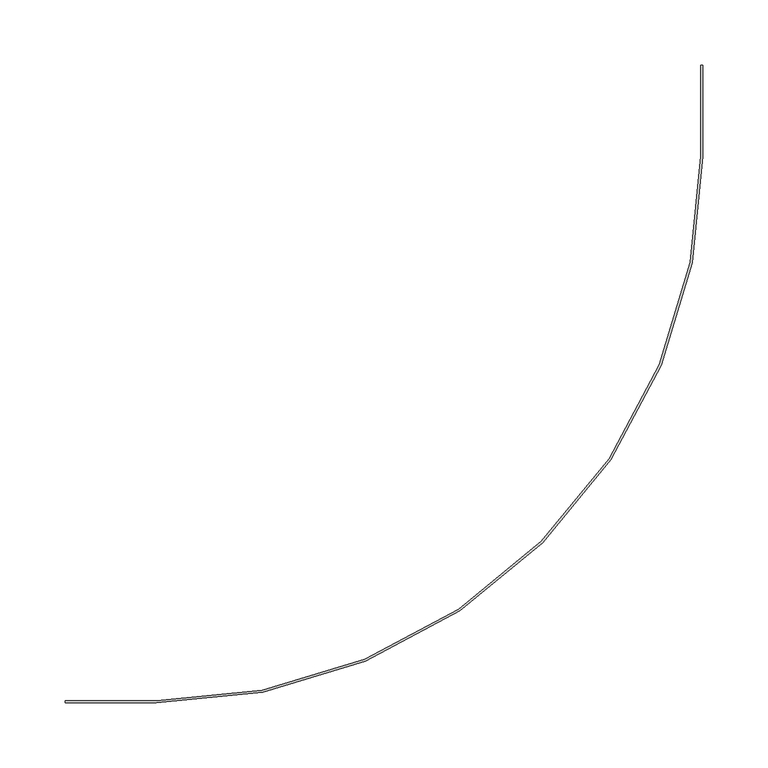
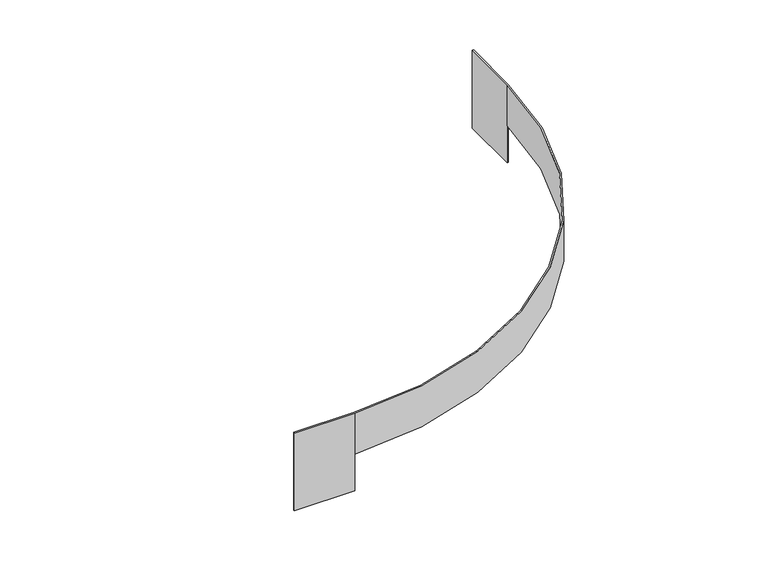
"""IFC4 building model written with IfcOpenShell, lengths in millimetres: cable carrier fitting geometry, BAKS_LD_CONN_Addon connector_LDDK : LDDKP."""

from ifc_helpers import new_model, si_unit, frame, origin, place, context, project, spatial, polyline, circle_curve, source, transform, mapped, element, save
from ifc_brep_helpers import plane_surface, cylinder_surface, revolved_surface, advanced_brep


def cable_carrier_fitting_a9217249(model_context):
    return source(origin(), model_context, "Body", "AdvancedBrep", [
        advanced_brep(
        [(-490.0, 1.5, 72.5), (-490.0, 1.5, -22.5), (-490.0, 0.0, -22.5), (-490.0, 0.0, 72.5), (-420.0, 0.0, 72.5), (0.0, 420.0, 72.5), (0.0, 490.0, 72.5), (-1.5, 490.0, 72.5), (-1.5, 420.0, 72.5), (-420.0, 1.5, 72.5), (-420.0, 0.0, -22.5), (-420.0, 0.0, 22.5), (-420.0, 1.5, 22.5), (-1.5, 420.0, 22.5), (0.0, 420.0, 22.5), (-420.0, 1.5, -22.5), (0.0, 490.0, -22.5), (-1.5, 490.0, -22.5), (0.0, 420.0, -22.5), (-1.5, 420.0, -22.5)],
        [
            (0, 1),
            (1, 2),
            (2, 3),
            (3, 0),
            (3, 4),
            (4, 5, circle_curve(frame((-420.0, 420.0, 72.5), z_axis=(0.0, 0.0, 1.0), x_axis=(0.0, -1.0, 0.0)), 420.0)),
            (5, 6),
            (6, 7),
            (7, 8),
            (8, 9, circle_curve(frame((-420.0, 420.0, 72.5), z_axis=(0.0, 0.0, -1.0), x_axis=(0.0, -1.0, 0.0)), 418.5)),
            (9, 0),
            (2, 10),
            (10, 11),
            (11, 4),
            (11, 12),
            (12, 13, circle_curve(frame((-420.0, 420.0, 22.5), z_axis=(0.0, 0.0, 1.0), x_axis=(0.0, -1.0, 0.0)), 418.5)),
            (13, 14),
            (14, 11, circle_curve(frame((-420.0, 420.0, 22.5), z_axis=(0.0, 0.0, -1.0), x_axis=(0.0, -1.0, 0.0)), 420.0)),
            (9, 12),
            (12, 15),
            (15, 1),
            (14, 5),
            (8, 13),
            (6, 16),
            (16, 17),
            (17, 7),
            (14, 18),
            (18, 16),
            (17, 19),
            (19, 13),
            (15, 10),
            (18, 19),
        ],
        [
            plane_surface(frame((-490.0, 0.0, 22.5), z_axis=(-1.0, 0.0, 0.0), x_axis=(0.0, 0.0, 1.0))),
            plane_surface(frame((-490.0, 1.5, 72.5), z_axis=(0.0, 0.0, 1.0), x_axis=(1.0, 0.0, 0.0))),
            plane_surface(frame((-490.0, 0.0, 72.5), z_axis=(0.0, -1.0, 0.0), x_axis=(1.0, 0.0, 0.0))),
            plane_surface(frame((-490.0, 0.0, 22.5), z_axis=(0.0, 0.0, -1.0), x_axis=(1.0, 0.0, 0.0))),
            plane_surface(frame((-490.0, 1.5, 22.5), z_axis=(0.0, 1.0, 0.0), x_axis=(1.0, 0.0, 0.0))),
            cylinder_surface(frame((-420.0, 420.0, 22.5), z_axis=(0.0, 0.0, -1.0), x_axis=(0.0, -1.0, 0.0)), 420.0),
            revolved_surface(polyline([(-420.0, 1.5, 22.5), (-420.0, 1.5, 72.5)]), (-420.0, 420.0, 22.5), (0.0, 0.0, -1.0)),
            plane_surface(frame((0.0, 490.0, 22.5), z_axis=(0.0, 1.0, 0.0), x_axis=(0.0, 0.0, 1.0))),
            plane_surface(frame((0.0, 420.0, 72.5), z_axis=(1.0, 0.0, 0.0), x_axis=(0.0, 1.0, 0.0))),
            plane_surface(frame((-1.5, 420.0, 22.5), z_axis=(-1.0, 0.0, 0.0), x_axis=(0.0, 1.0, 0.0))),
            plane_surface(frame((-490.0, 0.0, -22.5), z_axis=(0.0, 0.0, -1.0), x_axis=(1.0, 0.0, 0.0))),
            plane_surface(frame((-420.0, 1.5, 22.5), z_axis=(1.0, 0.0, 0.0), x_axis=(0.0, 0.0, -1.0))),
            plane_surface(frame((-1.5, 420.0, -22.5), z_axis=(0.0, 0.0, -1.0), x_axis=(1.0, 0.0, 0.0))),
            plane_surface(frame((0.0, 420.0, 22.5), z_axis=(0.0, -1.0, 0.0), x_axis=(0.0, 0.0, -1.0))),
        ],
        [
            (0, [[1, 2, 3, 4]]),
            (1, [[5, 6, 7, 8, 9, 10, 11, -4]]),
            (2, [[-3, 12, 13, 14, -5]]),
            (3, [[15, 16, 17, 18]]),
            (4, [[19, 20, 21, -1, -11]]),
            (5, [[-14, -18, 22, -6]]),
            (6, [[23, -16, -19, -10]]),
            (7, [[24, 25, 26, -8]]),
            (8, [[-22, 27, 28, -24, -7]]),
            (9, [[29, 30, -23, -9, -26]]),
            (10, [[-12, -2, -21, 31]]),
            (11, [[-20, -15, -13, -31]]),
            (12, [[32, -29, -25, -28]]),
            (13, [[-27, -17, -30, -32]]),
        ],
    ),
    ])


if __name__ == "__main__":
    model = new_model("IFC4")
    model_context = context("Model", 3, world=origin())
    ifc_project = project(units=[si_unit("LENGTHUNIT", "METRE", prefix="MILLI")], contexts=[model_context])
    site = spatial("IfcSite", under=ifc_project)
    building = spatial("IfcBuilding", under=site)
    placement = place(None, origin())
    cable_carrier_fitting_shape = cable_carrier_fitting_a9217249(model_context)
    element("IfcCableCarrierFitting", 1, ObjectType="BAKS_LD_CONN_Addon connector_LDDK : LDDKP", at=placement, inside=building, context=model_context, shape_type="MappedRepresentation", body=[
        mapped(cable_carrier_fitting_shape, transform((0.0, 0.0, 0.0), x_axis=(1.0, 0.0, 0.0), y_axis=(0.0, 1.0, 0.0), z_axis=(0.0, 0.0, 1.0))),
    ])
    save(model, "model.ifc")
